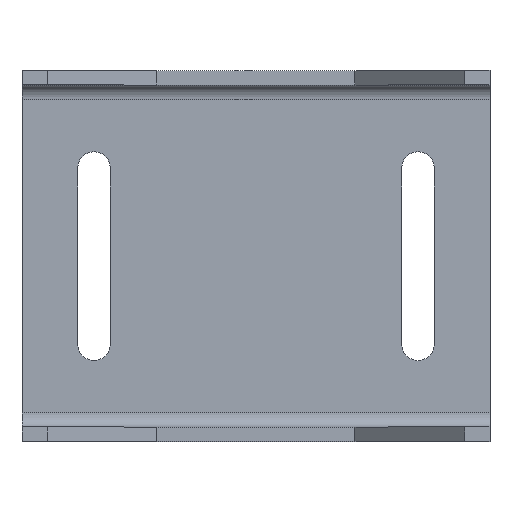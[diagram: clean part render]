
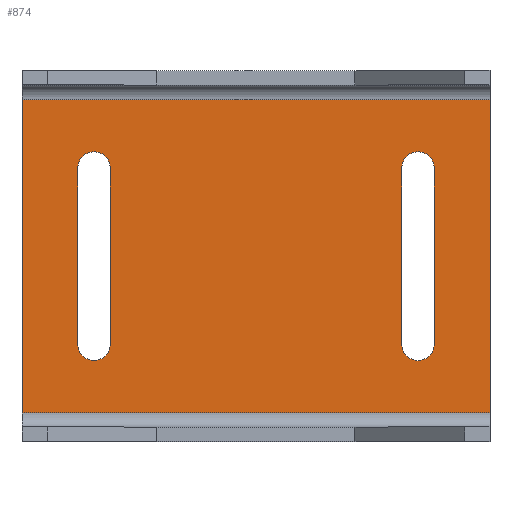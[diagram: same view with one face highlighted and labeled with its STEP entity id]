
A CAD part, top view. The second image highlights one B-rep face of the part: STEP entity #874.
In plain terms, the highlighted planar face has unit normal (0, 0, 1).
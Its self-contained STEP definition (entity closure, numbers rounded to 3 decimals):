
#605=CARTESIAN_POINT('',(65.0,-8.0,4.0));
#606=VERTEX_POINT('',#605);
#614=CARTESIAN_POINT('',(65.0,-95.,4.0));
#615=VERTEX_POINT('',#614);
#616=CARTESIAN_POINT('',(65.0,-8.0,4.0));
#617=DIRECTION('',(0.0,-1.0,0.0));
#618=VECTOR('',#617,87.);
#619=LINE('',#616,#618);
#620=EDGE_CURVE('',#606,#615,#619,.T.);
#691=CARTESIAN_POINT('',(-65.0,-95.,4.0));
#692=VERTEX_POINT('',#691);
#700=CARTESIAN_POINT('',(-65.0,-8.0,4.0));
#701=VERTEX_POINT('',#700);
#702=CARTESIAN_POINT('',(-65.0,-95.,4.0));
#703=DIRECTION('',(0.0,1.0,0.0));
#704=VECTOR('',#703,87.);
#705=LINE('',#702,#704);
#706=EDGE_CURVE('',#692,#701,#705,.T.);
#759=CARTESIAN_POINT('',(-65.0,-95.,4.0));
#760=DIRECTION('',(1.0,0.0,0.0));
#761=VECTOR('',#760,130.0);
#762=LINE('',#759,#761);
#763=EDGE_CURVE('',#692,#615,#762,.T.);
#786=CARTESIAN_POINT('',(0.0,-51.5,4.0));
#787=DIRECTION('',(0.0,0.0,1.0));
#788=DIRECTION('',(1.0,0.0,0.0));
#789=AXIS2_PLACEMENT_3D('',#786,#787,#788);
#790=PLANE('',#789);
#791=ORIENTED_EDGE('',*,*,#763,.T.);
#792=ORIENTED_EDGE('',*,*,#620,.F.);
#793=CARTESIAN_POINT('',(65.0,-8.0,4.0));
#794=DIRECTION('',(-1.0,0.0,0.0));
#795=VECTOR('',#794,130.0);
#796=LINE('',#793,#795);
#797=EDGE_CURVE('',#606,#701,#796,.T.);
#798=ORIENTED_EDGE('',*,*,#797,.T.);
#799=ORIENTED_EDGE('',*,*,#706,.F.);
#800=EDGE_LOOP('',(#791,#792,#798,#799));
#801=FACE_OUTER_BOUND('',#800,.T.);
#802=CARTESIAN_POINT('',(-49.5,-27.0,4.0));
#803=VERTEX_POINT('',#802);
#804=CARTESIAN_POINT('',(-40.5,-27.0,4.0));
#805=VERTEX_POINT('',#804);
#806=CARTESIAN_POINT('',(-45.0,-27.0,4.0));
#807=DIRECTION('',(0.0,0.0,-1.0));
#808=DIRECTION('',(-1.0,0.0,0.0));
#809=AXIS2_PLACEMENT_3D('',#806,#807,#808);
#810=CIRCLE('',#809,4.5);
#811=EDGE_CURVE('',#803,#805,#810,.T.);
#812=ORIENTED_EDGE('',*,*,#811,.T.);
#813=CARTESIAN_POINT('',(-40.5,-76.,4.0));
#814=VERTEX_POINT('',#813);
#815=CARTESIAN_POINT('',(-40.5,-27.0,4.0));
#816=DIRECTION('',(0.0,-1.0,0.0));
#817=VECTOR('',#816,49.);
#818=LINE('',#815,#817);
#819=EDGE_CURVE('',#805,#814,#818,.T.);
#820=ORIENTED_EDGE('',*,*,#819,.T.);
#821=CARTESIAN_POINT('',(-49.5,-76.,4.0));
#822=VERTEX_POINT('',#821);
#823=CARTESIAN_POINT('',(-45.0,-76.,4.0));
#824=DIRECTION('',(0.0,0.0,-1.0));
#825=DIRECTION('',(1.0,0.0,0.0));
#826=AXIS2_PLACEMENT_3D('',#823,#824,#825);
#827=CIRCLE('',#826,4.5);
#828=EDGE_CURVE('',#814,#822,#827,.T.);
#829=ORIENTED_EDGE('',*,*,#828,.T.);
#830=CARTESIAN_POINT('',(-49.5,-76.,4.0));
#831=DIRECTION('',(0.0,1.0,0.0));
#832=VECTOR('',#831,49.);
#833=LINE('',#830,#832);
#834=EDGE_CURVE('',#822,#803,#833,.T.);
#835=ORIENTED_EDGE('',*,*,#834,.T.);
#836=EDGE_LOOP('',(#812,#820,#829,#835));
#837=FACE_BOUND('',#836,.T.);
#838=CARTESIAN_POINT('',(49.5,-76.,4.0));
#839=VERTEX_POINT('',#838);
#840=CARTESIAN_POINT('',(40.5,-76.,4.0));
#841=VERTEX_POINT('',#840);
#842=CARTESIAN_POINT('',(45.0,-76.,4.0));
#843=DIRECTION('',(0.0,0.0,-1.0));
#844=DIRECTION('',(-1.0,0.0,0.0));
#845=AXIS2_PLACEMENT_3D('',#842,#843,#844);
#846=CIRCLE('',#845,4.5);
#847=EDGE_CURVE('',#839,#841,#846,.T.);
#848=ORIENTED_EDGE('',*,*,#847,.T.);
#849=CARTESIAN_POINT('',(40.5,-27.0,4.0));
#850=VERTEX_POINT('',#849);
#851=CARTESIAN_POINT('',(40.5,-76.,4.0));
#852=DIRECTION('',(0.0,1.0,0.0));
#853=VECTOR('',#852,49.);
#854=LINE('',#851,#853);
#855=EDGE_CURVE('',#841,#850,#854,.T.);
#856=ORIENTED_EDGE('',*,*,#855,.T.);
#857=CARTESIAN_POINT('',(49.5,-27.0,4.0));
#858=VERTEX_POINT('',#857);
#859=CARTESIAN_POINT('',(45.0,-27.0,4.0));
#860=DIRECTION('',(0.0,0.0,-1.0));
#861=DIRECTION('',(1.0,0.0,0.0));
#862=AXIS2_PLACEMENT_3D('',#859,#860,#861);
#863=CIRCLE('',#862,4.5);
#864=EDGE_CURVE('',#850,#858,#863,.T.);
#865=ORIENTED_EDGE('',*,*,#864,.T.);
#866=CARTESIAN_POINT('',(49.5,-27.0,4.0));
#867=DIRECTION('',(0.0,-1.0,0.0));
#868=VECTOR('',#867,49.);
#869=LINE('',#866,#868);
#870=EDGE_CURVE('',#858,#839,#869,.T.);
#871=ORIENTED_EDGE('',*,*,#870,.T.);
#872=EDGE_LOOP('',(#848,#856,#865,#871));
#873=FACE_BOUND('',#872,.T.);
#874=ADVANCED_FACE('',(#801,#837,#873),#790,.T.);
